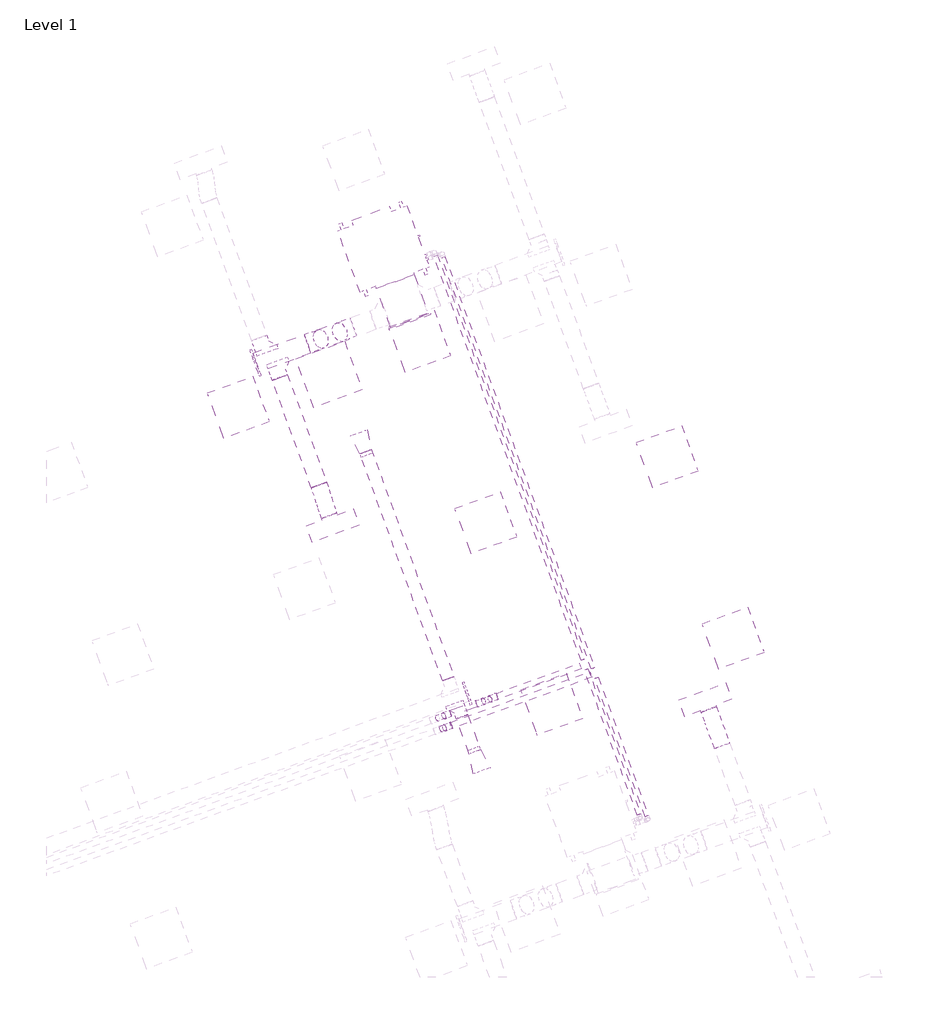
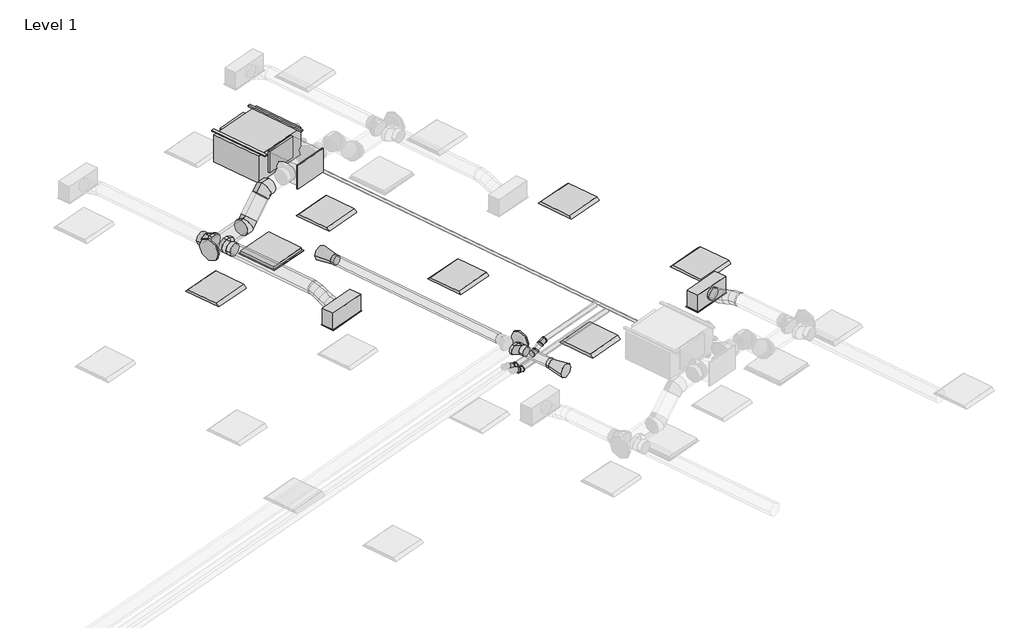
# One storey, part 28 of 30: 10 pipe segments, 8 duct fittings, 8 duct segments, 6 light fixtures, 5 air terminals, 4 pipe fittings, 1 proxy.
"""IFC4 building model written with IfcOpenShell, lengths in millimetres."""

from ifc_helpers import new_model, si_unit, point, frame, frame_2d, origin, place, context, project, spatial, polyline, circle_curve, ellipse_curve, trimmed, segment, composite_curve, outline, extrude, transform, mapped, element, save
from ifc_brep_helpers import plane_surface, cylinder_surface, advanced_brep
from components import air_terminal_b88b8e4d, air_terminal_0d1c431e, return_grille_rectangular_hosted_standard_7b12617c, supply_diffuser_with_plenum_linear_slot_hosted_8c379eed, fan_coil_unit_ceiling_ducted_chw_376_lps_9c8cc8ac, dw144_rectangular_blank_end_standard_1669e3e3, dw144_round_blank_end_standard_e3d0b58b, dw144_round_blank_end_standard_5beff049, dw144_round_segmented_bend_slip_joint_standard_636bd9c1, dw144_round_shoe_branch_slip_joint1_standard_2_559552f4, dw144_round_shoe_branch_slip_joint1_standard_2_54bfcc3c, light_fixture_1c7c1157, light_fixture_b730b5ca, elbow_threaded_gmi_standard_e52ea759

model = new_model("IFC4")

# Units and contexts
model_context = context("Model", 3, world=origin())
ifc_project = project(units=[si_unit("LENGTHUNIT", "METRE", prefix="MILLI")], contexts=[model_context])

# Site, building, storey
site = spatial("IfcSite", under=ifc_project)
building = spatial("IfcBuilding", under=site)
storey = spatial("IfcBuildingStorey", under=building, Name="Level 1", Elevation=3900.0)

# Air terminals
placement = place(None, origin())
air_terminal_shape = air_terminal_b88b8e4d(model_context)
element("IfcAirTerminal", 1, ObjectType="Supply_Bell_Mouth_Grille : Supply_Bell_Mouth_Grille", at=placement, inside=storey, context=model_context, shape_type="MappedRepresentation", body=[
    mapped(air_terminal_shape, transform((58081.5319053, 19738.0197173, 7000.0), x_axis=(-0.3420201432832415, 0.9396926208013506, 0.0), y_axis=(-0.9396926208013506, -0.3420201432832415, 0.0), z_axis=(0.0, 0.0, 1.0))),
])
air_terminal_2_shape = air_terminal_0d1c431e(model_context)
element("IfcAirTerminal", 2, ObjectType="Supply_Bell_Mouth_Grille : Supply_Bell_Mouth_Grille", at=placement, inside=storey, context=model_context, shape_type="MappedRepresentation", body=[
    mapped(air_terminal_2_shape, transform((59441.0619748, 16002.7415496, 7000.0), x_axis=(0.3420201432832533, -0.9396926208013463, 0.0), y_axis=(0.9396926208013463, 0.3420201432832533, 0.0), z_axis=(0.0, 0.0, 1.0))),
])
return_grille_rectangular_hosted_standard_shape = return_grille_rectangular_hosted_standard_7b12617c(model_context)
element("IfcAirTerminal", 3, ObjectType="Return Grille - Rectangular - Hosted : Standard", at=placement, inside=storey, context=model_context, shape_type="MappedRepresentation", body=[
    mapped(return_grille_rectangular_hosted_standard_shape, transform((57626.8548517, 20697.8106845, 6700.0), x_axis=(0.939692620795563, 0.34202014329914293, 0.0), y_axis=(0.34202014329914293, -0.939692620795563, 0.0), z_axis=(0.0, 0.0, -1.0))),
])
supply_diffuser_with_plenum_linear_slot_hosted_shape = supply_diffuser_with_plenum_linear_slot_hosted_8c379eed(model_context)
element("IfcAirTerminal", 4, ObjectType="Supply Diffuser with Plenum - Linear Slot - Hosted : 24\" x 8\"-200 In Inlet  4-Slot", at=placement, inside=storey, context=model_context, shape_type="MappedRepresentation", body=[
    mapped(supply_diffuser_with_plenum_linear_slot_hosted_shape, transform((57672.5704775, 18817.9253945, 6700.0), x_axis=(0.939692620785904, 0.342020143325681, 0.0), y_axis=(0.342020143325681, -0.939692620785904, 0.0), z_axis=(0.0, 0.0, -1.0))),
])
element("IfcAirTerminal", 5, ObjectType="Supply Diffuser with Plenum - Linear Slot - Hosted : 24\" x 8\"-200 In Inlet  4-Slot", at=placement, inside=storey, context=model_context, shape_type="MappedRepresentation", body=[
    mapped(supply_diffuser_with_plenum_linear_slot_hosted_shape, transform((62303.835891, 16653.5325978, 6700.0), x_axis=(-0.9396926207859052, -0.3420201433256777, 0.0), y_axis=(-0.3420201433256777, 0.9396926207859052, 0.0), z_axis=(0.0, 0.0, -1.0))),
])

# Proxy
fan_coil_unit_ceiling_ducted_chw_376_lps_shape = fan_coil_unit_ceiling_ducted_chw_376_lps_9c8cc8ac(model_context)
element("IfcBuildingElementProxy", 6, Name="Fan Coil Unit - Ceiling Ducted - CHW : 376 LPS", ObjectType="Fan Coil Unit - Ceiling Ducted - CHW : 376 LPS", at=placement, inside=storey, context=model_context, shape_type="MappedRepresentation", body=[
    mapped(fan_coil_unit_ceiling_ducted_chw_376_lps_shape, transform((58013.066855, 21719.3871216, 7115.575), x_axis=(0.9396926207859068, 0.34202014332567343, 0.0), y_axis=(-0.34202014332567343, 0.9396926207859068, 0.0), z_axis=(0.0, 0.0, 1.0))),
])

# Duct fittings
dw144_rectangular_blank_end_standard_shape = dw144_rectangular_blank_end_standard_1669e3e3(model_context)
element("IfcDuctFitting", 7, ObjectType="DW144 Rectangular Blank End : Standard", at=placement, inside=storey, context=model_context, shape_type="MappedRepresentation", body=[
    mapped(dw144_rectangular_blank_end_standard_shape, transform((58629.0952993, 21363.6262528, 7369.575), x_axis=(0.34202014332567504, -0.9396926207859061, 0.0), y_axis=(0.9396926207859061, 0.34202014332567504, 0.0), z_axis=(0.0, 0.0, 1.0))),
])
dw144_round_blank_end_standard_shape = dw144_round_blank_end_standard_e3d0b58b(model_context)
element("IfcDuctFitting", 8, ObjectType="DW144 Round Blank End : Standard", at=placement, inside=storey, context=model_context, shape_type="MappedRepresentation", body=[
    mapped(dw144_round_blank_end_standard_shape, transform((56721.5404125, 20844.6765966, 6972.2088531), x_axis=(-0.9396926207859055, -0.3420201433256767, 0.0), y_axis=(0.3420201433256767, -0.9396926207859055, 0.0), z_axis=(0.0, 0.0, 1.0))),
])
dw144_round_blank_end_standard_2_shape = dw144_round_blank_end_standard_5beff049(model_context)
element("IfcDuctFitting", 9, ObjectType="DW144 Round Blank End : Standard", at=placement, inside=storey, context=model_context, shape_type="MappedRepresentation", body=[
    mapped(dw144_round_blank_end_standard_2_shape, transform((59334.3056083, 16727.5734979, 7000.0), x_axis=(0.9396926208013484, 0.34202014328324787, 0.0), y_axis=(-0.34202014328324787, 0.9396926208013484, 0.0), z_axis=(0.0, 0.0, 1.0))),
])
dw144_round_segmented_bend_slip_joint_standard_shape = dw144_round_segmented_bend_slip_joint_standard_636bd9c1(model_context)
element("IfcDuctFitting", 10, ObjectType="DW144 Round Segmented Bend - Slip Joint : Standard", at=placement, inside=storey, context=model_context, shape_type="MappedRepresentation", body=[
    mapped(dw144_round_segmented_bend_slip_joint_standard_shape, transform((57456.9817646, 21112.3553578, 6972.2088531), x_axis=(-0.6644630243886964, -0.24184476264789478, -0.7071067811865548), y_axis=(-0.6644630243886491, -0.24184476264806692, 0.7071067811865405), z_axis=(-0.34202014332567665, 0.9396926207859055, 0.0))),
])
element("IfcDuctFitting", 11, ObjectType="DW144 Round Segmented Bend - Slip Joint : Standard", at=placement, inside=storey, context=model_context, shape_type="MappedRepresentation", body=[
    mapped(dw144_round_segmented_bend_slip_joint_standard_shape, transform((57830.3838005, 21248.2625843, 7369.575), x_axis=(-0.9396926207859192, -0.3420201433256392, 0.0), y_axis=(0.0, 0.0, -1.0000000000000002), z_axis=(0.3420201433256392, -0.9396926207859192, 0.0))),
])
dw144_round_shoe_branch_slip_joint1_standard_2_shape = dw144_round_shoe_branch_slip_joint1_standard_2_559552f4(model_context)
element("IfcDuctFitting", 12, ObjectType="DW144 Round Shoe Branch - Slip Joint1 : Standard 2", at=placement, inside=storey, context=model_context, shape_type="MappedRepresentation", body=[
    mapped(dw144_round_shoe_branch_slip_joint1_standard_2_shape, transform((56809.6255441, 21009.7591842, 6972.2088531), x_axis=(-0.3420201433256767, 0.9396926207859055, 0.0), y_axis=(0.9396926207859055, 0.3420201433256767, 0.0), z_axis=(0.0, 0.0, -1.0))),
])
element("IfcDuctFitting", 13, ObjectType="DW144 Round Shoe Branch - Slip Joint1 : Standard 2", at=placement, inside=storey, context=model_context, shape_type="MappedRepresentation", body=[
    mapped(dw144_round_shoe_branch_slip_joint1_standard_2_shape, transform((56963.6827341, 20799.7869726, 6972.2088531), x_axis=(0.3420201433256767, -0.9396926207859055, 0.0), y_axis=(0.9396926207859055, 0.3420201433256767, 0.0), z_axis=(0.0, 0.0, 1.0))),
])
dw144_round_shoe_branch_slip_joint1_standard_2_2_shape = dw144_round_shoe_branch_slip_joint1_standard_2_54bfcc3c(model_context)
element("IfcDuctFitting", 14, ObjectType="DW144 Round Shoe Branch - Slip Joint1 : Standard 2", at=placement, inside=storey, context=model_context, shape_type="MappedRepresentation", body=[
    mapped(dw144_round_shoe_branch_slip_joint1_standard_2_2_shape, transform((59229.8193689, 16583.1258396, 7000.0), x_axis=(0.3420201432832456, -0.9396926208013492, 0.0), y_axis=(-0.9396926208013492, -0.3420201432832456, 0.0), z_axis=(0.0, 0.0, -1.0))),
])

# Duct segments
element("IfcDuctSegment", 15, ObjectType="DW144 Flanged Med Radius Bend / Shoe Branch", at=placement, inside=storey, context=model_context, shape_type="SweptSolid", body=[
    extrude(outline(polyline([(58216.4584777, 21766.3855027), (58686.3047881, 21937.3955743), (58864.0184545, 21449.1312886), (58394.1721442, 21278.1212169), (58216.4584777, 21766.3855027)])), frame((0.0, 0.0, 7194.575), z_axis=(0.0, 0.0, 1.0), x_axis=(1.0, 0.0, 0.0)), (0.0, 0.0, 1.0), 350.0),
])
element("IfcDuctSegment", 16, ObjectType="DW144 Segmented Bend / Shoe Branch", at=placement, inside=storey, context=model_context, shape_type="SweptSolid", body=[
    extrude(outline(composite_curve([segment(trimmed(circle_curve(frame_2d((0.0, 125.0)), 125.0), [point((125.0, 125.0))], [point((0.0, 0.0))], False, "CARTESIAN"), True, "CONTINUOUS"), segment(trimmed(circle_curve(frame_2d((0.0, 125.0)), 125.0), [point((0.0, 0.0))], [point((-125.0, 125.0))], False, "CARTESIAN"), True, "CONTINUOUS"), segment(trimmed(circle_curve(frame_2d((0.0, 125.0)), 125.0), [point((-125.0, 125.0))], [point((0.0, 250.0))], False, "CARTESIAN"), True, "CONTINUOUS"), segment(trimmed(circle_curve(frame_2d((0.0, 125.0)), 125.0), [point((0.0, 250.0))], [point((125.0, 125.0))], False, "CARTESIAN"), True, "CONTINUOUS")], self_intersect=False)), frame((56721.5404125, 20844.6765966, 7097.2088531), z_axis=(0.9396926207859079, 0.3420201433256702, 0.0), x_axis=(0.3420201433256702, -0.9396926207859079, 0.0)), (0.0, 0.0, 1.0), 679.0869492),
])
element("IfcDuctSegment", 17, ObjectType="DW144 Segmented Bend / Shoe Branch", at=placement, inside=storey, context=model_context, shape_type="SweptSolid", body=[
    extrude(outline(composite_curve([segment(trimmed(circle_curve(frame_2d((0.0, 100.0)), 100.0), [point((100.0, 100.0))], [point((0.0, 0.0))], False, "CARTESIAN"), True, "CONTINUOUS"), segment(trimmed(circle_curve(frame_2d((0.0, 100.0)), 100.0), [point((0.0, 0.0))], [point((-100.0, 100.0))], False, "CARTESIAN"), True, "CONTINUOUS"), segment(trimmed(circle_curve(frame_2d((0.0, 100.0)), 100.0), [point((-100.0, 100.0))], [point((0.0, 200.0))], False, "CARTESIAN"), True, "CONTINUOUS"), segment(trimmed(circle_curve(frame_2d((0.0, 100.0)), 100.0), [point((0.0, 200.0))], [point((100.0, 100.0))], False, "CARTESIAN"), True, "CONTINUOUS")], self_intersect=False)), frame((57501.7133926, 19321.5598874, 7072.2088531), z_axis=(-0.34202014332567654, 0.9396926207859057, 0.0), x_axis=(0.9396926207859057, 0.34202014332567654, 0.0)), (0.0, 0.0, 1.0), 1423.0964067),
])
element("IfcDuctSegment", 18, ObjectType="DW144 Segmented Bend / Shoe Branch", at=placement, inside=storey, context=model_context, shape_type="SweptSolid", body=[
    extrude(outline(composite_curve([segment(trimmed(circle_curve(frame_2d((0.0, -124.9999999)), 125.0), [point((-57.2076923, -13.8591886))], [point((111.1408113, -67.7923077))], False, "CARTESIAN"), True, "CONTINUOUS"), segment(trimmed(circle_curve(frame_2d((0.0, -124.9999999)), 125.0), [point((111.1408113, -67.7923077))], [point((57.2076923, -236.1408113))], False, "CARTESIAN"), True, "CONTINUOUS"), segment(trimmed(circle_curve(frame_2d((0.0, -124.9999999)), 125.0), [point((57.2076923, -236.1408113))], [point((-111.1408114, -182.2076923))], False, "CARTESIAN"), True, "CONTINUOUS"), segment(trimmed(circle_curve(frame_2d((0.0, -124.9999999)), 125.0), [point((-111.1408114, -182.2076923))], [point((-57.2076923, -13.8591886))], False, "CARTESIAN"), True, "CONTINUOUS")], self_intersect=False)), frame((57525.7891637, 21255.672784, 7004.9802107), z_axis=(0.6644630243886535, 0.24184476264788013, 0.7071067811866), x_axis=(0.7473211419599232, -0.21503058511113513, -0.6287073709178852)), (0.0, 0.0, 1.0), 354.8538129),
])
element("IfcDuctSegment", 19, ObjectType="DW144 Segmented Bend / Shoe Branch", at=placement, inside=storey, context=model_context, shape_type="SweptSolid", body=[
    extrude(outline(composite_curve([segment(trimmed(circle_curve(frame_2d((0.0, 75.0)), 75.0), [point((75.0, 75.0))], [point((0.0, 0.0))], False, "CARTESIAN"), True, "CONTINUOUS"), segment(trimmed(circle_curve(frame_2d((0.0, 75.0)), 75.0), [point((0.0, 0.0))], [point((-75.0, 75.0))], False, "CARTESIAN"), True, "CONTINUOUS"), segment(trimmed(circle_curve(frame_2d((0.0, 75.0)), 75.0), [point((-75.0, 75.0))], [point((0.0, 150.0))], False, "CARTESIAN"), True, "CONTINUOUS"), segment(trimmed(circle_curve(frame_2d((0.0, 75.0)), 75.0), [point((0.0, 150.0))], [point((75.0, 75.0))], False, "CARTESIAN"), True, "CONTINUOUS")], self_intersect=False)), frame((59110.1123187, 16912.0182569, 7075.0), z_axis=(-0.3420201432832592, 0.9396926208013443, 0.0), x_axis=(0.9396926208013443, 0.3420201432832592, 0.0)), (0.0, 0.0, 1.0), 3007.3679391),
])
element("IfcDuctSegment", 20, ObjectType="DW144 Segmented Bend / Shoe Branch", at=placement, inside=storey, context=model_context, shape_type="SweptSolid", body=[
    extrude(outline(composite_curve([segment(trimmed(circle_curve(frame_2d((0.0, -75.0)), 75.0), [point((-74.9999999, -75.0))], [point((0.0, 0.0))], False, "CARTESIAN"), True, "CONTINUOUS"), segment(trimmed(circle_curve(frame_2d((0.0, -75.0)), 75.0), [point((0.0, 0.0))], [point((75.0, -75.0))], False, "CARTESIAN"), True, "CONTINUOUS"), segment(trimmed(circle_curve(frame_2d((0.0, -75.0)), 75.0), [point((75.0, -75.0))], [point((0.0, -150.0))], False, "CARTESIAN"), True, "CONTINUOUS"), segment(trimmed(circle_curve(frame_2d((0.0, -75.0)), 75.0), [point((0.0, -150.0))], [point((-74.9999999, -75.0))], False, "CARTESIAN"), True, "CONTINUOUS")], self_intersect=False)), frame((59441.0619748, 16002.7415496, 6925.0), z_axis=(-0.3420201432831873, 0.9396926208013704, 0.0), x_axis=(0.9396926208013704, 0.3420201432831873, 0.0)), (0.0, 0.0, 1.0), 467.6320609),
])
element("IfcDuctSegment", 21, ObjectType="Flex - Round", at=placement, inside=storey, context=model_context, shape_type="AdvancedBrep", body=[
    advanced_brep(
    [(57595.6826547, 19355.7619017, 6972.2088531), (57501.7133926, 19321.5598874, 6872.2088531), (57407.7441305, 19287.3578731, 6972.2088531), (57501.7133926, 19321.5598874, 7072.2088531), (57602.1041255, 19338.1190557, 6972.2088531), (57504.0916899, 19315.0255693, 6872.2088531), (57413.4350701, 19271.722145, 6972.2088531), (57511.4475057, 19294.8156315, 7072.2088531), (57722.4533431, 18973.2537876, 6854.4), (57628.484081, 18939.0517733, 6954.4), (57534.5148189, 18904.849759, 6854.4), (57628.484081, 18939.0517733, 6754.4), (57629.9247331, 19256.2182403, 6953.3905604), (57525.1921039, 19252.9082665, 6857.9362042), (57440.0414556, 19193.3958665, 6954.2118792), (57544.7740848, 19196.7058403, 7049.6662355), (57660.283183, 19160.955101, 6912.5672617), (57552.8628863, 19166.0788793, 6820.7270377), (57469.9142906, 19099.6565597, 6914.0415914), (57577.3345874, 19094.5327814, 7005.8818154), (57690.1560181, 19067.2157942, 6872.3969739), (57585.4233888, 19063.9058204, 6776.9426177), (57500.2727405, 19004.3934204, 6873.2182927), (57605.0053698, 19007.7033942, 6968.6726489), (57716.7624035, 18988.8895157, 6854.4), (57618.7499679, 18965.7960292, 6754.4), (57528.0933481, 18922.492605, 6854.4), (57626.1057837, 18945.5860914, 6954.4)],
    [
        (0, 1, circle_curve(frame((57501.7133926, 19321.5598874, 6972.2088531), z_axis=(-0.34202014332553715, 0.9396926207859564, 0.0), x_axis=(0.9396926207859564, 0.34202014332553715, 0.0)), 100.0)),
        (1, 2, circle_curve(frame((57501.7133926, 19321.5598874, 6972.2088531), z_axis=(-0.34202014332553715, 0.9396926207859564, 0.0), x_axis=(0.9396926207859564, 0.34202014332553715, 0.0)), 100.0)),
        (2, 3, circle_curve(frame((57501.7133926, 19321.5598874, 6972.2088531), z_axis=(-0.34202014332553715, 0.9396926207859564, 0.0), x_axis=(0.9396926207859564, 0.34202014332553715, 0.0)), 100.0)),
        (3, 0, circle_curve(frame((57501.7133926, 19321.5598874, 6972.2088531), z_axis=(-0.34202014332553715, 0.9396926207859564, 0.0), x_axis=(0.9396926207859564, 0.34202014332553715, 0.0)), 100.0)),
        (0, 4),
        (4, 5, ellipse_curve(frame((57507.7695978, 19304.9206004, 6972.2088531), z_axis=(-0.3300629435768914, 0.9378849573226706, 0.10691239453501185), x_axis=(-0.1290757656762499, 0.06735376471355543, -0.9893446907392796)), 100.582195, 100.0)),
        (5, 1),
        (5, 6, ellipse_curve(frame((57507.7695978, 19304.9206004, 6972.2088531), z_axis=(-0.3300629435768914, 0.9378849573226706, 0.10691239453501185), x_axis=(-0.1290757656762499, 0.06735376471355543, -0.9893446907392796)), 100.582195, 100.0)),
        (6, 2),
        (6, 7, ellipse_curve(frame((57507.7695978, 19304.9206004, 6972.2088531), z_axis=(-0.3300629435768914, 0.9378849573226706, 0.10691239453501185), x_axis=(-0.1290757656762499, 0.06735376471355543, -0.9893446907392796)), 100.582195, 100.0)),
        (7, 3),
        (7, 4, ellipse_curve(frame((57507.7695978, 19304.9206004, 6972.2088531), z_axis=(-0.3300629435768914, 0.9378849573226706, 0.10691239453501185), x_axis=(-0.1290757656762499, 0.06735376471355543, -0.9893446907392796)), 100.582195, 100.0)),
        (8, 9, circle_curve(frame((57628.484081, 18939.0517733, 6854.4), z_axis=(0.342020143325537, -0.9396926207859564, 0.0), x_axis=(0.9396926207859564, 0.342020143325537, 0.0)), 100.0)),
        (9, 10, circle_curve(frame((57628.484081, 18939.0517733, 6854.4), z_axis=(0.342020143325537, -0.9396926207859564, 0.0), x_axis=(0.9396926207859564, 0.342020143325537, 0.0)), 100.0)),
        (10, 11, circle_curve(frame((57628.484081, 18939.0517733, 6854.4), z_axis=(0.342020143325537, -0.9396926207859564, 0.0), x_axis=(0.9396926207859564, 0.342020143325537, 0.0)), 100.0)),
        (11, 8, circle_curve(frame((57628.484081, 18939.0517733, 6854.4), z_axis=(0.342020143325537, -0.9396926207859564, 0.0), x_axis=(0.9396926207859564, 0.342020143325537, 0.0)), 100.0)),
        (4, 12),
        (12, 13, ellipse_curve(frame((57534.9830943, 19224.8070534, 6953.8012198), z_axis=(-0.2988301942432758, 0.9071022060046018, 0.29642217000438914), x_axis=(-0.19053245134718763, 0.2476495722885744, -0.9499300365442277)), 100.3812182, 100.0)),
        (13, 5),
        (13, 14, ellipse_curve(frame((57534.9830943, 19224.8070534, 6953.8012198), z_axis=(-0.2988301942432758, 0.9071022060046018, 0.29642217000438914), x_axis=(-0.19053245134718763, 0.2476495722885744, -0.9499300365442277)), 100.3812182, 100.0)),
        (14, 6),
        (14, 15, ellipse_curve(frame((57534.9830943, 19224.8070534, 6953.8012198), z_axis=(-0.2988301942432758, 0.9071022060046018, 0.29642217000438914), x_axis=(-0.19053245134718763, 0.2476495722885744, -0.9499300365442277)), 100.3812182, 100.0)),
        (15, 7),
        (15, 12, ellipse_curve(frame((57534.9830943, 19224.8070534, 6953.8012198), z_axis=(-0.2988301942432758, 0.9071022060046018, 0.29642217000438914), x_axis=(-0.19053245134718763, 0.2476495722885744, -0.9499300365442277)), 100.3812182, 100.0)),
        (12, 16),
        (16, 17, circle_curve(frame((57565.0987368, 19130.3058303, 6913.3044266), z_axis=(-0.2811058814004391, 0.8820947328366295, 0.3780057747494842), x_axis=(0.9518444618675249, 0.3064927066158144, -0.007371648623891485)), 100.0)),
        (17, 13),
        (17, 18, circle_curve(frame((57565.0987368, 19130.3058303, 6913.3044266), z_axis=(-0.2811058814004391, 0.8820947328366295, 0.3780057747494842), x_axis=(0.9518444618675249, 0.3064927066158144, -0.007371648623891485)), 100.0)),
        (18, 14),
        (18, 19, circle_curve(frame((57565.0987368, 19130.3058303, 6913.3044266), z_axis=(-0.2811058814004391, 0.8820947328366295, 0.3780057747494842), x_axis=(0.9518444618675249, 0.3064927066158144, -0.007371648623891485)), 100.0)),
        (19, 15),
        (19, 16, circle_curve(frame((57565.0987368, 19130.3058303, 6913.3044266), z_axis=(-0.2811058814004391, 0.8820947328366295, 0.3780057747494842), x_axis=(0.9518444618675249, 0.3064927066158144, -0.007371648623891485)), 100.0)),
        (16, 20),
        (20, 21, ellipse_curve(frame((57595.2143793, 19035.8046073, 6872.8076333), z_axis=(-0.2988301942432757, 0.9071022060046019, 0.2964221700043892), x_axis=(0.19053245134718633, -0.24764957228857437, 0.9499300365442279)), 100.3812182, 100.0)),
        (21, 17),
        (21, 22, ellipse_curve(frame((57595.2143793, 19035.8046073, 6872.8076333), z_axis=(-0.2988301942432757, 0.9071022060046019, 0.2964221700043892), x_axis=(0.19053245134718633, -0.24764957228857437, 0.9499300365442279)), 100.3812182, 100.0)),
        (22, 18),
        (22, 23, ellipse_curve(frame((57595.2143793, 19035.8046073, 6872.8076333), z_axis=(-0.2988301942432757, 0.9071022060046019, 0.2964221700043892), x_axis=(0.19053245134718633, -0.24764957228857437, 0.9499300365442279)), 100.3812182, 100.0)),
        (23, 19),
        (23, 20, ellipse_curve(frame((57595.2143793, 19035.8046073, 6872.8076333), z_axis=(-0.2988301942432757, 0.9071022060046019, 0.2964221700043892), x_axis=(0.19053245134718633, -0.24764957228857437, 0.9499300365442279)), 100.3812182, 100.0)),
        (20, 24),
        (24, 25, ellipse_curve(frame((57622.4278758, 18955.6910603, 6854.4), z_axis=(-0.3300629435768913, 0.9378849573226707, 0.10691239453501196), x_axis=(0.12907576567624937, -0.06735376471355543, 0.9893446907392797)), 100.582195, 100.0)),
        (25, 21),
        (25, 26, ellipse_curve(frame((57622.4278758, 18955.6910603, 6854.4), z_axis=(-0.3300629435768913, 0.9378849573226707, 0.10691239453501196), x_axis=(0.12907576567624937, -0.06735376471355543, 0.9893446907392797)), 100.582195, 100.0)),
        (26, 22),
        (26, 27, ellipse_curve(frame((57622.4278758, 18955.6910603, 6854.4), z_axis=(-0.3300629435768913, 0.9378849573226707, 0.10691239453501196), x_axis=(0.12907576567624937, -0.06735376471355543, 0.9893446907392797)), 100.582195, 100.0)),
        (27, 23),
        (27, 24, ellipse_curve(frame((57622.4278758, 18955.6910603, 6854.4), z_axis=(-0.3300629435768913, 0.9378849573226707, 0.10691239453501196), x_axis=(0.12907576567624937, -0.06735376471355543, 0.9893446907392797)), 100.582195, 100.0)),
        (24, 8),
        (11, 25),
        (10, 26),
        (9, 27),
    ],
    [
        plane_surface(frame((57501.7133926, 19321.5598874, 6872.2088531), z_axis=(-0.3420201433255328, 0.9396926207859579, 0.0), x_axis=(0.9396926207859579, 0.3420201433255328, 0.0))),
        cylinder_surface(frame((57501.7133926, 19321.5598874, 6972.2088531), z_axis=(-0.34202014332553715, 0.9396926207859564, 0.0), x_axis=(0.9396926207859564, 0.34202014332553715, 0.0)), 100.0),
        plane_surface(frame((57628.484081, 18939.0517733, 6754.4), z_axis=(0.3420201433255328, -0.9396926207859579, 0.0), x_axis=(0.9396926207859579, 0.3420201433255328, 0.0))),
        cylinder_surface(frame((57507.7695978, 19304.9206004, 6972.2088531), z_axis=(-0.3142847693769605, 0.925219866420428, 0.21258711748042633), x_axis=(0.9467017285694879, 0.32210352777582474, -0.0022703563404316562)), 100.0),
        cylinder_surface(frame((57534.9830943, 19224.8070534, 6953.8012198), z_axis=(-0.281105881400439, 0.8820947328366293, 0.3780057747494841), x_axis=(0.9518444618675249, 0.3064927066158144, -0.007371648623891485)), 100.0),
        cylinder_surface(frame((57565.0987368, 19130.3058303, 6913.3044266), z_axis=(-0.281105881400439, 0.8820947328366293, 0.37800577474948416), x_axis=(0.9518444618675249, 0.3064927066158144, -0.007371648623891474)), 100.0),
        cylinder_surface(frame((57595.2143793, 19035.8046073, 6872.8076333), z_axis=(-0.3142847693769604, 0.9252198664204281, 0.21258711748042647), x_axis=(0.9467017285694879, 0.32210352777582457, -0.0022703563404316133)), 100.0),
        cylinder_surface(frame((57622.4278758, 18955.6910603, 6854.4), z_axis=(-0.342020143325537, 0.9396926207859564, 0.0), x_axis=(0.9396926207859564, 0.342020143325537, 0.0)), 100.0),
    ],
    [
        (0, [[1, 2, 3, 4]]),
        (1, [[-1, 5, 6, 7]]),
        (1, [[-2, -7, 8, 9]]),
        (1, [[-3, -9, 10, 11]]),
        (1, [[-4, -11, 12, -5]]),
        (2, [[13, 14, 15, 16]]),
        (3, [[-6, 17, 18, 19]]),
        (3, [[-8, -19, 20, 21]]),
        (3, [[-10, -21, 22, 23]]),
        (3, [[-12, -23, 24, -17]]),
        (4, [[-18, 25, 26, 27]]),
        (4, [[-20, -27, 28, 29]]),
        (4, [[-22, -29, 30, 31]]),
        (4, [[-24, -31, 32, -25]]),
        (5, [[-26, 33, 34, 35]]),
        (5, [[-28, -35, 36, 37]]),
        (5, [[-30, -37, 38, 39]]),
        (5, [[-32, -39, 40, -33]]),
        (6, [[-34, 41, 42, 43]]),
        (6, [[-36, -43, 44, 45]]),
        (6, [[-38, -45, 46, 47]]),
        (6, [[-40, -47, 48, -41]]),
        (7, [[-42, 49, -16, 50]]),
        (7, [[-44, -50, -15, 51]]),
        (7, [[-46, -51, -14, 52]]),
        (7, [[-48, -52, -13, -49]]),
    ],
),
])
element("IfcDuctSegment", 22, ObjectType="Flex - Round", at=placement, inside=storey, context=model_context, shape_type="AdvancedBrep", body=[
    advanced_brep(
    [(62419.4860197, 16043.4060404, 6972.2088531), (62513.4552818, 16077.6080547, 6872.2088531), (62607.4245439, 16111.8100691, 6972.2088531), (62513.4552818, 16077.6080547, 7072.2088531), (62414.3964087, 16057.3896319, 6972.2088531), (62511.2743759, 16083.6000445, 6872.2088531), (62602.3349328, 16125.7936606, 6972.2088531), (62505.4569656, 16099.583248, 7072.2088531), (62253.9530254, 16498.2042046, 6854.4), (62347.9222874, 16532.406219, 6954.4), (62441.8915495, 16566.6082333, 6854.4), (62347.9222874, 16532.406219, 6754.4), (62377.6496427, 16158.3505416, 6953.8012198), (62480.0398713, 16169.4161407, 6856.5624883), (62565.5881669, 16226.7545703, 6953.8012198), (62463.1979383, 16215.6889712, 7051.0399514), (62336.7195226, 16270.8051225, 6913.3044266), (62441.6520069, 16274.8859312, 6818.581036), (62524.6580467, 16339.2091512, 6913.3044266), (62419.7255623, 16335.1283425, 7008.0278172), (62295.7894024, 16383.2597034, 6872.8076333), (62398.179631, 16394.3253025, 6775.5689017), (62483.7279266, 16451.6637321, 6872.8076333), (62381.337698, 16440.598133, 6970.0463649), (62259.0426364, 16484.2206131, 6854.4), (62355.9206037, 16510.4310257, 6754.4), (62446.9811606, 16552.6246418, 6854.4), (62350.1031934, 16526.4142292, 6954.4)],
    [
        (0, 1, circle_curve(frame((62513.4552818, 16077.6080547, 6972.2088531), z_axis=(0.34202014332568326, -0.9396926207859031, 0.0), x_axis=(-0.9396926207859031, -0.34202014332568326, 0.0)), 100.0)),
        (1, 2, circle_curve(frame((62513.4552818, 16077.6080547, 6972.2088531), z_axis=(0.34202014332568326, -0.9396926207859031, 0.0), x_axis=(-0.9396926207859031, -0.34202014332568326, 0.0)), 100.0)),
        (2, 3, circle_curve(frame((62513.4552818, 16077.6080547, 6972.2088531), z_axis=(0.34202014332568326, -0.9396926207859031, 0.0), x_axis=(-0.9396926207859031, -0.34202014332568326, 0.0)), 100.0)),
        (3, 0, circle_curve(frame((62513.4552818, 16077.6080547, 6972.2088531), z_axis=(0.34202014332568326, -0.9396926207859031, 0.0), x_axis=(-0.9396926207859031, -0.34202014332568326, 0.0)), 100.0)),
        (0, 4),
        (4, 5, ellipse_curve(frame((62508.3656707, 16091.5916462, 6972.2088531), z_axis=(0.3407899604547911, -0.936312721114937, 0.08473895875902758), x_axis=(0.02898243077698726, -0.07962857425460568, -0.9964031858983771)), 100.3609798, 100.0)),
        (5, 1),
        (5, 6, ellipse_curve(frame((62508.3656707, 16091.5916462, 6972.2088531), z_axis=(0.3407899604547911, -0.936312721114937, 0.08473895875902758), x_axis=(0.02898243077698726, -0.07962857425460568, -0.9964031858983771)), 100.3609798, 100.0)),
        (6, 2),
        (6, 7, ellipse_curve(frame((62508.3656707, 16091.5916462, 6972.2088531), z_axis=(0.3407899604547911, -0.936312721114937, 0.08473895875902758), x_axis=(0.02898243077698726, -0.07962857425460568, -0.9964031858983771)), 100.3609798, 100.0)),
        (7, 3),
        (7, 4, ellipse_curve(frame((62508.3656707, 16091.5916462, 6972.2088531), z_axis=(0.3407899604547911, -0.936312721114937, 0.08473895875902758), x_axis=(0.02898243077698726, -0.07962857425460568, -0.9964031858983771)), 100.3609798, 100.0)),
        (8, 9, circle_curve(frame((62347.9222874, 16532.406219, 6854.4), z_axis=(-0.342020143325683, 0.9396926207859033, 0.0), x_axis=(-0.9396926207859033, -0.342020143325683, 0.0)), 100.0)),
        (9, 10, circle_curve(frame((62347.9222874, 16532.406219, 6854.4), z_axis=(-0.342020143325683, 0.9396926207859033, 0.0), x_axis=(-0.9396926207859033, -0.342020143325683, 0.0)), 100.0)),
        (10, 11, circle_curve(frame((62347.9222874, 16532.406219, 6854.4), z_axis=(-0.342020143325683, 0.9396926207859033, 0.0), x_axis=(-0.9396926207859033, -0.342020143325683, 0.0)), 100.0)),
        (11, 8, circle_curve(frame((62347.9222874, 16532.406219, 6854.4), z_axis=(-0.342020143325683, 0.9396926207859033, 0.0), x_axis=(-0.9396926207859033, -0.342020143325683, 0.0)), 100.0)),
        (4, 12),
        (12, 13, ellipse_curve(frame((62471.6189048, 16192.552556, 6953.8012198), z_axis=(0.3315567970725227, -0.9109448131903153, 0.24545801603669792), x_axis=(0.08395158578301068, -0.23065508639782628, -0.9694072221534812)), 100.307414, 100.0)),
        (13, 5),
        (13, 14, ellipse_curve(frame((62471.6189048, 16192.552556, 6953.8012198), z_axis=(0.3315567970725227, -0.9109448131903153, 0.24545801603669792), x_axis=(0.08395158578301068, -0.23065508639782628, -0.9694072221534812)), 100.307414, 100.0)),
        (14, 6),
        (14, 15, ellipse_curve(frame((62471.6189048, 16192.552556, 6953.8012198), z_axis=(0.3315567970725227, -0.9109448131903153, 0.24545801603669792), x_axis=(0.08395158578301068, -0.23065508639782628, -0.9694072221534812)), 100.307414, 100.0)),
        (15, 7),
        (15, 12, ellipse_curve(frame((62471.6189048, 16192.552556, 6953.8012198), z_axis=(0.3315567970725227, -0.9109448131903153, 0.24545801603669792), x_axis=(0.08395158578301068, -0.23065508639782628, -0.9694072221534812)), 100.307414, 100.0)),
        (12, 16),
        (16, 17, circle_curve(frame((62430.6887846, 16305.0071368, 6913.3044266), z_axis=(0.32397307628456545, -0.8901087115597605, 0.3205431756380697), x_axis=(-0.9396926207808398, -0.34202014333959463, 2.442978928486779e-12)), 100.0)),
        (17, 13),
        (17, 18, circle_curve(frame((62430.6887846, 16305.0071368, 6913.3044266), z_axis=(0.32397307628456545, -0.8901087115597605, 0.3205431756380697), x_axis=(-0.9396926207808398, -0.34202014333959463, 2.442978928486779e-12)), 100.0)),
        (18, 14),
        (18, 19, circle_curve(frame((62430.6887846, 16305.0071368, 6913.3044266), z_axis=(0.32397307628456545, -0.8901087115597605, 0.3205431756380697), x_axis=(-0.9396926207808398, -0.34202014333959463, 2.442978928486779e-12)), 100.0)),
        (19, 15),
        (19, 16, circle_curve(frame((62430.6887846, 16305.0071368, 6913.3044266), z_axis=(0.32397307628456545, -0.8901087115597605, 0.3205431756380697), x_axis=(-0.9396926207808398, -0.34202014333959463, 2.442978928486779e-12)), 100.0)),
        (16, 20),
        (20, 21, ellipse_curve(frame((62389.7586645, 16417.4617177, 6872.8076333), z_axis=(0.3315567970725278, -0.9109448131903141, 0.2454580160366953), x_axis=(-0.08395158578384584, 0.23065508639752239, 0.9694072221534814)), 100.307414, 100.0)),
        (21, 17),
        (21, 22, ellipse_curve(frame((62389.7586645, 16417.4617177, 6872.8076333), z_axis=(0.3315567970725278, -0.9109448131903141, 0.2454580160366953), x_axis=(-0.08395158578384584, 0.23065508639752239, 0.9694072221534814)), 100.307414, 100.0)),
        (22, 18),
        (22, 23, ellipse_curve(frame((62389.7586645, 16417.4617177, 6872.8076333), z_axis=(0.3315567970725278, -0.9109448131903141, 0.2454580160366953), x_axis=(-0.08395158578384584, 0.23065508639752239, 0.9694072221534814)), 100.307414, 100.0)),
        (23, 19),
        (23, 20, ellipse_curve(frame((62389.7586645, 16417.4617177, 6872.8076333), z_axis=(0.3315567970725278, -0.9109448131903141, 0.2454580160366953), x_axis=(-0.08395158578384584, 0.23065508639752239, 0.9694072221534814)), 100.307414, 100.0)),
        (20, 24),
        (24, 25, ellipse_curve(frame((62353.0118985, 16518.4226275, 6854.4), z_axis=(0.3407899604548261, -0.9363127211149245, 0.08473895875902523), x_axis=(-0.028982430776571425, 0.07962857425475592, 0.9964031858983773)), 100.3609798, 100.0)),
        (25, 21),
        (25, 26, ellipse_curve(frame((62353.0118985, 16518.4226275, 6854.4), z_axis=(0.3407899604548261, -0.9363127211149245, 0.08473895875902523), x_axis=(-0.028982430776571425, 0.07962857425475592, 0.9964031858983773)), 100.3609798, 100.0)),
        (26, 22),
        (26, 27, ellipse_curve(frame((62353.0118985, 16518.4226275, 6854.4), z_axis=(0.3407899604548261, -0.9363127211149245, 0.08473895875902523), x_axis=(-0.028982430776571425, 0.07962857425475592, 0.9964031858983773)), 100.3609798, 100.0)),
        (27, 23),
        (27, 24, ellipse_curve(frame((62353.0118985, 16518.4226275, 6854.4), z_axis=(0.3407899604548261, -0.9363127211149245, 0.08473895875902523), x_axis=(-0.028982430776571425, 0.07962857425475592, 0.9964031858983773)), 100.3609798, 100.0)),
        (24, 8),
        (11, 25),
        (10, 26),
        (9, 27),
    ],
    [
        plane_surface(frame((62513.4552818, 16077.6080547, 7072.2088531), z_axis=(0.3420201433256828, -0.9396926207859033, 0.0), x_axis=(0.9396926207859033, 0.3420201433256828, 0.0))),
        cylinder_surface(frame((62513.4552818, 16077.6080547, 6972.2088531), z_axis=(0.34202014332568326, -0.9396926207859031, 0.0), x_axis=(-0.9396926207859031, -0.34202014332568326, 0.0)), 100.0),
        plane_surface(frame((62347.9222874, 16532.406219, 6954.4), z_axis=(-0.3420201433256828, 0.9396926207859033, 0.0), x_axis=(0.9396926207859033, 0.3420201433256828, 0.0))),
        cylinder_surface(frame((62508.3656707, 16091.5916462, 6972.2088531), z_axis=(0.3371082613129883, -0.9261973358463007, 0.16886833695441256), x_axis=(-0.9396926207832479, -0.3420201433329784, 0.0)), 100.0),
        cylinder_surface(frame((62471.6189048, 16192.552556, 6953.8012198), z_axis=(0.32397307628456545, -0.8901087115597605, 0.3205431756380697), x_axis=(-0.9396926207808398, -0.34202014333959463, 2.442978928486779e-12)), 100.0),
        cylinder_surface(frame((62430.6887846, 16305.0071368, 6913.3044266), z_axis=(0.32397307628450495, -0.8901087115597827, 0.32054317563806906), x_axis=(-0.9396926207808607, -0.34202014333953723, 2.422361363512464e-12)), 100.0),
        cylinder_surface(frame((62389.7586645, 16417.4617177, 6872.8076333), z_axis=(0.33710826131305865, -0.9261973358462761, 0.16886833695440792), x_axis=(-0.9396926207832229, -0.3420201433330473, 0.0)), 100.0),
        cylinder_surface(frame((62353.0118985, 16518.4226275, 6854.4), z_axis=(0.342020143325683, -0.9396926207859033, 0.0), x_axis=(-0.9396926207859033, -0.342020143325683, 0.0)), 100.0),
    ],
    [
        (0, [[1, 2, 3, 4]]),
        (1, [[-1, 5, 6, 7]]),
        (1, [[-2, -7, 8, 9]]),
        (1, [[-3, -9, 10, 11]]),
        (1, [[-4, -11, 12, -5]]),
        (2, [[13, 14, 15, 16]]),
        (3, [[-6, 17, 18, 19]]),
        (3, [[-8, -19, 20, 21]]),
        (3, [[-10, -21, 22, 23]]),
        (3, [[-12, -23, 24, -17]]),
        (4, [[-18, 25, 26, 27]]),
        (4, [[-20, -27, 28, 29]]),
        (4, [[-22, -29, 30, 31]]),
        (4, [[-24, -31, 32, -25]]),
        (5, [[-26, 33, 34, 35]]),
        (5, [[-28, -35, 36, 37]]),
        (5, [[-30, -37, 38, 39]]),
        (5, [[-32, -39, 40, -33]]),
        (6, [[-34, 41, 42, 43]]),
        (6, [[-36, -43, 44, 45]]),
        (6, [[-38, -45, 46, 47]]),
        (6, [[-40, -47, 48, -41]]),
        (7, [[-42, 49, -16, 50]]),
        (7, [[-44, -50, -15, 51]]),
        (7, [[-46, -51, -14, 52]]),
        (7, [[-48, -52, -13, -49]]),
    ],
),
])

# Light fixtures
light_fixture_shape = light_fixture_1c7c1157(model_context)
element("IfcLightFixture", 23, ObjectType="ELEKTRA Plain Recessed Lighting Fixture : 24\" x 24\" - 230", at=placement, inside=storey, context=model_context, shape_type="MappedRepresentation", body=[
    mapped(light_fixture_shape, transform((61651.2948871, 19289.3070813, 6700.0), x_axis=(0.9396926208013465, 0.342020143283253, 0.0), y_axis=(0.342020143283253, -0.9396926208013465, 0.0), z_axis=(0.0, 0.0, -1.0))),
])
element("IfcLightFixture", 24, ObjectType="ELEKTRA Plain Recessed Lighting Fixture : 24\" x 24\" - 230", at=placement, inside=storey, context=model_context, shape_type="MappedRepresentation", body=[
    mapped(light_fixture_shape, transform((62472.143231, 17034.0447913, 6700.0), x_axis=(0.9396926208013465, 0.342020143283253, 0.0), y_axis=(0.342020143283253, -0.9396926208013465, 0.0), z_axis=(0.0, 0.0, -1.0))),
])
element("IfcLightFixture", 25, ObjectType="ELEKTRA Plain Recessed Lighting Fixture : 24\" x 24\" - 230", at=placement, inside=storey, context=model_context, shape_type="MappedRepresentation", body=[
    mapped(light_fixture_shape, transform((58575.1842533, 20723.7210273, 6700.0), x_axis=(0.9396926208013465, 0.342020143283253, 0.0), y_axis=(0.342020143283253, -0.9396926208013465, 0.0), z_axis=(0.0, 0.0, -1.0))),
])
element("IfcLightFixture", 26, ObjectType="ELEKTRA Plain Recessed Lighting Fixture : 24\" x 24\" - 230", at=placement, inside=storey, context=model_context, shape_type="MappedRepresentation", body=[
    mapped(light_fixture_shape, transform((59396.0325972, 18468.4587374, 6700.0), x_axis=(0.9396926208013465, 0.342020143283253, 0.0), y_axis=(0.342020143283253, -0.9396926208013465, 0.0), z_axis=(0.0, 0.0, -1.0))),
])
element("IfcLightFixture", 27, ObjectType="ELEKTRA Plain Recessed Lighting Fixture : 24\" x 24\" - 230", at=placement, inside=storey, context=model_context, shape_type="MappedRepresentation", body=[
    mapped(light_fixture_shape, transform((56319.9219634, 19902.8726834, 6700.0), x_axis=(0.9396926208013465, 0.342020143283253, 0.0), y_axis=(0.342020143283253, -0.9396926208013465, 0.0), z_axis=(0.0, 0.0, -1.0))),
])
light_fixture_2_shape = light_fixture_b730b5ca(model_context)
element("IfcLightFixture", 28, ObjectType="ELEKTRA EM Recessed Lighting Fixture : 24\" x 24\" - 230", at=placement, inside=storey, context=model_context, shape_type="MappedRepresentation", body=[
    mapped(light_fixture_2_shape, transform((60216.8809411, 16213.1964474, 6700.0), x_axis=(0.9396926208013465, 0.342020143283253, 0.0), y_axis=(0.342020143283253, -0.9396926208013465, 0.0), z_axis=(0.0, 0.0, -1.0))),
])

# Pipe fittings
elbow_threaded_gmi_standard_shape = elbow_threaded_gmi_standard_e52ea759(model_context)
element("IfcPipeFitting", 29, ObjectType="Elbow - Threaded - GMI : Standard", at=placement, inside=storey, context=model_context, shape_type="MappedRepresentation", body=[
    mapped(elbow_threaded_gmi_standard_shape, transform((59095.4127432, 16467.5161953, 6800.0), x_axis=(-0.9396926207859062, -0.34202014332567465, 0.0), y_axis=(0.0, 0.0, 1.0), z_axis=(-0.34202014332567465, 0.9396926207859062, 0.0))),
])
element("IfcPipeFitting", 30, ObjectType="Elbow - Threaded - GMI : Standard", at=placement, inside=storey, context=model_context, shape_type="MappedRepresentation", body=[
    mapped(elbow_threaded_gmi_standard_shape, transform((59506.806633, 16617.2513258, 6800.0), x_axis=(-0.8137976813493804, -0.2961981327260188, -0.4999999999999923), y_axis=(-0.46984631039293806, -0.1710100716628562, 0.8660254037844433), z_axis=(-0.3420201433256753, 0.9396926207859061, 0.0))),
])
element("IfcPipeFitting", 31, ObjectType="Elbow - Threaded - GMI : Standard", at=placement, inside=storey, context=model_context, shape_type="MappedRepresentation", body=[
    mapped(elbow_threaded_gmi_standard_shape, transform((59669.5661693, 16676.4909523, 6900.0), x_axis=(0.8137976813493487, 0.2961981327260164, 0.5000000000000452), y_axis=(0.4698463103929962, 0.17101007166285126, -0.8660254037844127), z_axis=(-0.34202014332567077, 0.9396926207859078, 0.0))),
])
element("IfcPipeFitting", 32, ObjectType="Elbow - Threaded - GMI : Standard", at=placement, inside=storey, context=model_context, shape_type="MappedRepresentation", body=[
    mapped(elbow_threaded_gmi_standard_shape, transform((59103.488451, 16318.7239262, 6825.0), x_axis=(-0.9396926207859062, -0.34202014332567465, 0.0), y_axis=(0.0, 0.0, 1.0), z_axis=(-0.34202014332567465, 0.9396926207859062, 0.0))),
])

# Pipe segments
element("IfcPipeSegment", 33, ObjectType="Carbon Steel - Threaded", at=placement, inside=storey, context=model_context, shape_type="SweptSolid", body=[
    extrude(outline(composite_curve([segment(trimmed(circle_curve(frame_2d((0.0, 38.3)), 38.3), [point((38.3, 38.3))], [point((0.0, 0.0))], False, "CARTESIAN"), True, "CONTINUOUS"), segment(trimmed(circle_curve(frame_2d((0.0, 38.3)), 38.3), [point((0.0, 0.0))], [point((-38.2999999, 38.3))], False, "CARTESIAN"), True, "CONTINUOUS"), segment(trimmed(circle_curve(frame_2d((0.0, 38.3)), 38.3), [point((-38.2999999, 38.3))], [point((0.0, 76.6))], False, "CARTESIAN"), True, "CONTINUOUS"), segment(trimmed(circle_curve(frame_2d((0.0, 38.3)), 38.3), [point((0.0, 76.6))], [point((38.3, 38.3))], False, "CARTESIAN"), True, "CONTINUOUS")], self_intersect=False)), frame((59716.5508004, 16693.5919595, 6938.3), z_axis=(0.9396926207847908, 0.34202014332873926, 0.0), x_axis=(0.34202014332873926, -0.9396926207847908, 0.0)), (0.0, 0.0, 1.0), 1103.2256485),
])
element("IfcPipeSegment", 34, ObjectType="Carbon Steel - Threaded", at=placement, inside=storey, context=model_context, shape_type="SweptSolid", body=[
    extrude(outline(composite_curve([segment(trimmed(circle_curve(frame_2d((0.0, -38.3)), 38.3), [point((22.5404974, -69.2647538))], [point((-30.9647537, -60.8404974))], False, "CARTESIAN"), True, "CONTINUOUS"), segment(trimmed(circle_curve(frame_2d((0.0, -38.3)), 38.3), [point((-30.9647537, -60.8404974))], [point((-22.5404973, -7.3352462))], False, "CARTESIAN"), True, "CONTINUOUS"), segment(trimmed(circle_curve(frame_2d((0.0, -38.3)), 38.3), [point((-22.5404973, -7.3352462))], [point((30.9647539, -15.7595026))], False, "CARTESIAN"), True, "CONTINUOUS"), segment(trimmed(circle_curve(frame_2d((0.0, -38.3)), 38.3), [point((30.9647539, -15.7595026))], [point((22.5404974, -69.2647538))], False, "CARTESIAN"), True, "CONTINUOUS")], self_intersect=False)), frame((59054.7228591, 16485.6582914, 6844.5206433), z_axis=(-0.8137976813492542, -0.2961981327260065, 0.5000000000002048), x_axis=(0.5811482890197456, -0.4147742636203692, 0.7001635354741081)), (0.0, 0.0, 1.0), 100.0),
])
element("IfcPipeSegment", 35, ObjectType="Carbon Steel - Threaded", at=placement, inside=storey, context=model_context, shape_type="SweptSolid", body=[
    extrude(outline(composite_curve([segment(trimmed(circle_curve(frame_2d((0.0, 38.3)), 38.3), [point((38.3, 38.3))], [point((0.0, 0.0))], False, "CARTESIAN"), True, "CONTINUOUS"), segment(trimmed(circle_curve(frame_2d((0.0, 38.3)), 38.3), [point((0.0, 0.0))], [point((-38.2999999, 38.3))], False, "CARTESIAN"), True, "CONTINUOUS"), segment(trimmed(circle_curve(frame_2d((0.0, 38.3)), 38.3), [point((-38.2999999, 38.3))], [point((0.0, 76.6))], False, "CARTESIAN"), True, "CONTINUOUS"), segment(trimmed(circle_curve(frame_2d((0.0, 38.3)), 38.3), [point((0.0, 76.6))], [point((38.3, 38.3))], False, "CARTESIAN"), True, "CONTINUOUS")], self_intersect=False)), frame((59142.3973743, 16484.6172025, 6838.3), z_axis=(0.9396926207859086, 0.34202014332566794, 0.0), x_axis=(0.34202014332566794, -0.9396926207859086, 0.0)), (0.0, 0.0, 1.0), 337.7962333),
])
element("IfcPipeSegment", 36, ObjectType="Carbon Steel - Threaded", at=placement, inside=storey, context=model_context, shape_type="SweptSolid", body=[
    extrude(outline(composite_curve([segment(trimmed(circle_curve(frame_2d((0.0, 38.3)), 38.3), [point((22.5404974, 7.3352461))], [point((-30.9647538, 15.7595025))], False, "CARTESIAN"), True, "CONTINUOUS"), segment(trimmed(circle_curve(frame_2d((0.0, 38.3)), 38.3), [point((-30.9647538, 15.7595025))], [point((-22.5404974, 69.2647538))], False, "CARTESIAN"), True, "CONTINUOUS"), segment(trimmed(circle_curve(frame_2d((0.0, 38.3)), 38.3), [point((-22.5404974, 69.2647538))], [point((30.9647538, 60.8404973))], False, "CARTESIAN"), True, "CONTINUOUS"), segment(trimmed(circle_curve(frame_2d((0.0, 38.3)), 38.3), [point((30.9647538, 60.8404973))], [point((22.5404974, 7.3352461))], False, "CARTESIAN"), True, "CONTINUOUS")], self_intersect=False)), frame((59547.4965171, 16599.1092297, 6844.5206433), z_axis=(0.8137976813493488, 0.29619813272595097, 0.5000000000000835), x_axis=(0.581148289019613, -0.4147742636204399, -0.7001635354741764)), (0.0, 0.0, 1.0), 100.0),
])
element("IfcPipeSegment", 37, ObjectType="Carbon Steel - Threaded", at=placement, inside=storey, context=model_context, shape_type="SweptSolid", body=[
    extrude(outline(composite_curve([segment(trimmed(circle_curve(frame_2d((1e-07, -38.3)), 38.3), [point((22.5404974, -69.2647538))], [point((-30.9647538, -60.8404974))], False, "CARTESIAN"), True, "CONTINUOUS"), segment(trimmed(circle_curve(frame_2d((1e-07, -38.3)), 38.3), [point((-30.9647538, -60.8404974))], [point((-22.5404973, -7.3352462))], False, "CARTESIAN"), True, "CONTINUOUS"), segment(trimmed(circle_curve(frame_2d((1e-07, -38.3)), 38.3), [point((-22.5404973, -7.3352462))], [point((30.9647539, -15.7595026))], False, "CARTESIAN"), True, "CONTINUOUS"), segment(trimmed(circle_curve(frame_2d((1e-07, -38.3)), 38.3), [point((30.9647539, -15.7595026))], [point((22.5404974, -69.2647538))], False, "CARTESIAN"), True, "CONTINUOUS")], self_intersect=False)), frame((59062.7985669, 16336.8660223, 6869.5206433), z_axis=(-0.8137976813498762, -0.29619813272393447, 0.5000000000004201), x_axis=(0.5811482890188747, -0.41477426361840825, 0.7001635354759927)), (0.0, 0.0, 1.0), 50.0),
])
element("IfcPipeSegment", 38, ObjectType="Carbon Steel - Threaded", at=placement, inside=storey, context=model_context, shape_type="SweptSolid", body=[
    extrude(outline(composite_curve([segment(trimmed(circle_curve(frame_2d((0.0, 38.3)), 38.3), [point((38.2999999, 38.3))], [point((0.0, 0.0))], False, "CARTESIAN"), True, "CONTINUOUS"), segment(trimmed(circle_curve(frame_2d((0.0, 38.3)), 38.3), [point((0.0, 0.0))], [point((-38.3, 38.3))], False, "CARTESIAN"), True, "CONTINUOUS"), segment(trimmed(circle_curve(frame_2d((0.0, 38.3)), 38.3), [point((-38.3, 38.3))], [point((0.0, 76.6))], False, "CARTESIAN"), True, "CONTINUOUS"), segment(trimmed(circle_curve(frame_2d((0.0, 38.3)), 38.3), [point((0.0, 76.6))], [point((38.2999999, 38.3))], False, "CARTESIAN"), True, "CONTINUOUS")], self_intersect=False)), frame((59150.473082, 16335.8249333, 6863.3), z_axis=(0.93969262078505, 0.3420201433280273, 0.0), x_axis=(0.3420201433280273, -0.93969262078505, 0.0)), (0.0, 0.0, 1.0), 1841.8935733),
])
element("IfcPipeSegment", 39, ObjectType="Carbon Steel - Threaded", at=placement, inside=storey, context=model_context, shape_type="SweptSolid", body=[
    extrude(outline(composite_curve([segment(trimmed(circle_curve(frame_2d((0.0, 21.45)), 21.45), [point((21.45, 21.45))], [point((0.0, 0.0))], False, "CARTESIAN"), True, "CONTINUOUS"), segment(trimmed(circle_curve(frame_2d((0.0, 21.45)), 21.45), [point((0.0, 0.0))], [point((-21.45, 21.45))], False, "CARTESIAN"), True, "CONTINUOUS"), segment(trimmed(circle_curve(frame_2d((0.0, 21.45)), 21.45), [point((-21.45, 21.45))], [point((0.0, 42.9))], False, "CARTESIAN"), True, "CONTINUOUS"), segment(trimmed(circle_curve(frame_2d((0.0, 21.45)), 21.45), [point((0.0, 42.9))], [point((21.45, 21.45))], False, "CARTESIAN"), True, "CONTINUOUS")], self_intersect=False)), frame((60781.092062, 17147.5537609, 6921.45), z_axis=(-0.3420201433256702, 0.9396926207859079, 0.0), x_axis=(0.9396926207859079, 0.3420201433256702, 0.0)), (0.0, 0.0, 1.0), 5350.2384505),
])
element("IfcPipeSegment", 40, ObjectType="Carbon Steel - Threaded", at=placement, inside=storey, context=model_context, shape_type="SweptSolid", body=[
    extrude(outline(composite_curve([segment(trimmed(circle_curve(frame_2d((0.0, 21.45)), 21.45), [point((21.45, 21.45))], [point((0.0, 0.0))], False, "CARTESIAN"), True, "CONTINUOUS"), segment(trimmed(circle_curve(frame_2d((0.0, 21.45)), 21.45), [point((0.0, 0.0))], [point((-21.45, 21.45))], False, "CARTESIAN"), True, "CONTINUOUS"), segment(trimmed(circle_curve(frame_2d((0.0, 21.45)), 21.45), [point((-21.45, 21.45))], [point((0.0, 42.9))], False, "CARTESIAN"), True, "CONTINUOUS"), segment(trimmed(circle_curve(frame_2d((0.0, 21.45)), 21.45), [point((0.0, 42.9))], [point((21.45, 21.45))], False, "CARTESIAN"), True, "CONTINUOUS")], self_intersect=False)), frame((61480.6232053, 15225.6077405, 6921.45), z_axis=(-0.3420201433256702, 0.9396926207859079, 0.0), x_axis=(0.9396926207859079, 0.3420201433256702, 0.0)), (0.0, 0.0, 1.0), 1920.3122348),
])
element("IfcPipeSegment", 41, ObjectType="Carbon Steel - Threaded", at=placement, inside=storey, context=model_context, shape_type="SweptSolid", body=[
    extrude(outline(composite_curve([segment(trimmed(circle_curve(frame_2d((0.0, 21.45)), 21.45), [point((21.45, 21.45))], [point((0.0, 0.0))], False, "CARTESIAN"), True, "CONTINUOUS"), segment(trimmed(circle_curve(frame_2d((0.0, 21.45)), 21.45), [point((0.0, 0.0))], [point((-21.45, 21.45))], False, "CARTESIAN"), True, "CONTINUOUS"), segment(trimmed(circle_curve(frame_2d((0.0, 21.45)), 21.45), [point((-21.45, 21.45))], [point((0.0, 42.9))], False, "CARTESIAN"), True, "CONTINUOUS"), segment(trimmed(circle_curve(frame_2d((0.0, 21.45)), 21.45), [point((0.0, 42.9))], [point((21.45, 21.45))], False, "CARTESIAN"), True, "CONTINUOUS")], self_intersect=False)), frame((60909.1351419, 17042.4260443, 6846.45), z_axis=(-0.3420201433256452, 0.939692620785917, 0.0), x_axis=(0.939692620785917, 0.3420201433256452, 0.0)), (0.0, 0.0, 1.0), 5442.0195026),
])
element("IfcPipeSegment", 42, ObjectType="Carbon Steel - Threaded", at=placement, inside=storey, context=model_context, shape_type="SweptSolid", body=[
    extrude(outline(composite_curve([segment(trimmed(circle_curve(frame_2d((0.0, -21.45)), 21.45), [point((-21.45, -21.45))], [point((0.0, 0.0))], False, "CARTESIAN"), True, "CONTINUOUS"), segment(trimmed(circle_curve(frame_2d((0.0, -21.45)), 21.45), [point((0.0, 0.0))], [point((21.45, -21.45))], False, "CARTESIAN"), True, "CONTINUOUS"), segment(trimmed(circle_curve(frame_2d((0.0, -21.45)), 21.45), [point((21.45, -21.45))], [point((0.0, -42.9))], False, "CARTESIAN"), True, "CONTINUOUS"), segment(trimmed(circle_curve(frame_2d((0.0, -21.45)), 21.45), [point((0.0, -42.9))], [point((-21.45, -21.45))], False, "CARTESIAN"), True, "CONTINUOUS")], self_intersect=False)), frame((61577.2753166, 15206.7260012, 6803.55), z_axis=(-0.34202014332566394, 0.9396926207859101, 0.0), x_axis=(0.9396926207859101, 0.34202014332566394, 0.0)), (0.0, 0.0, 1.0), 1828.5311827),
])

save(model, "model.ifc")
